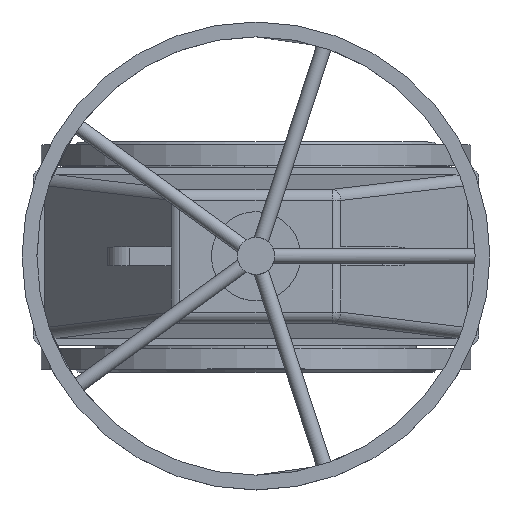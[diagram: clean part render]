
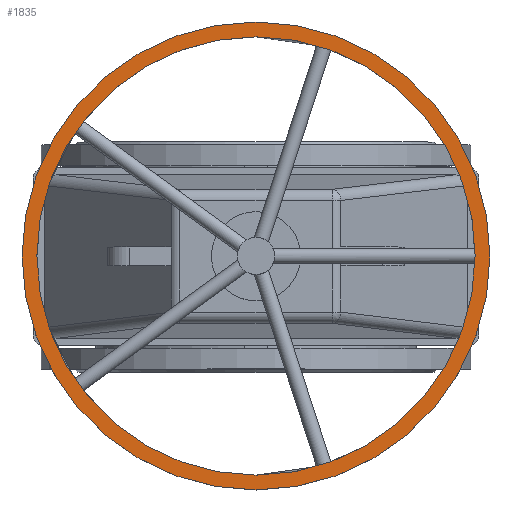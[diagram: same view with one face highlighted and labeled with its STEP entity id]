
A CAD part, top view. The second image highlights one B-rep face of the part: STEP entity #1835.
In plain terms, the highlighted planar face has unit normal (0, 0, 1).
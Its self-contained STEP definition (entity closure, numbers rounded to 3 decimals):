
#1835=ADVANCED_FACE('',(#4340,#4342),#4344,.T.);
#4340=FACE_BOUND('',#4341,.T.);
#4341=EDGE_LOOP('',(#5285));
#4342=FACE_BOUND('',#4343,.T.);
#4343=EDGE_LOOP('',(#5286));
#4344=PLANE('',#4345);
#4345=AXIS2_PLACEMENT_3D('',#4346,#4347,#4348);
#4346=CARTESIAN_POINT('',(0.,0.,950.5));
#4347=DIRECTION('',(0.,0.,1.));
#4348=DIRECTION('',(0.,-1.,0.));
#5285=ORIENTED_EDGE('',*,*,#5751,.T.);
#5286=ORIENTED_EDGE('',*,*,#5749,.T.);
#5749=EDGE_CURVE('',#6531,#6531,#6532,.F.);
#5751=EDGE_CURVE('',#6535,#6535,#6536,.T.);
#6531=VERTEX_POINT('',#9993);
#6532=CIRCLE('',#9994,295.);
#6535=VERTEX_POINT('',#10003);
#6536=CIRCLE('',#10004,315.);
#9993=CARTESIAN_POINT('',(0.,-295.,950.5));
#9994=AXIS2_PLACEMENT_3D('',#9995,#9996,#9997);
#9995=CARTESIAN_POINT('',(0.,0.,950.5));
#9996=DIRECTION('',(0.,0.,1.));
#9997=DIRECTION('',(0.,-1.,0.));
#10003=CARTESIAN_POINT('',(0.,-315.,950.5));
#10004=AXIS2_PLACEMENT_3D('',#10005,#10006,#10007);
#10005=CARTESIAN_POINT('',(0.,0.,950.5));
#10006=DIRECTION('',(0.,0.,1.));
#10007=DIRECTION('',(0.,-1.,0.));
